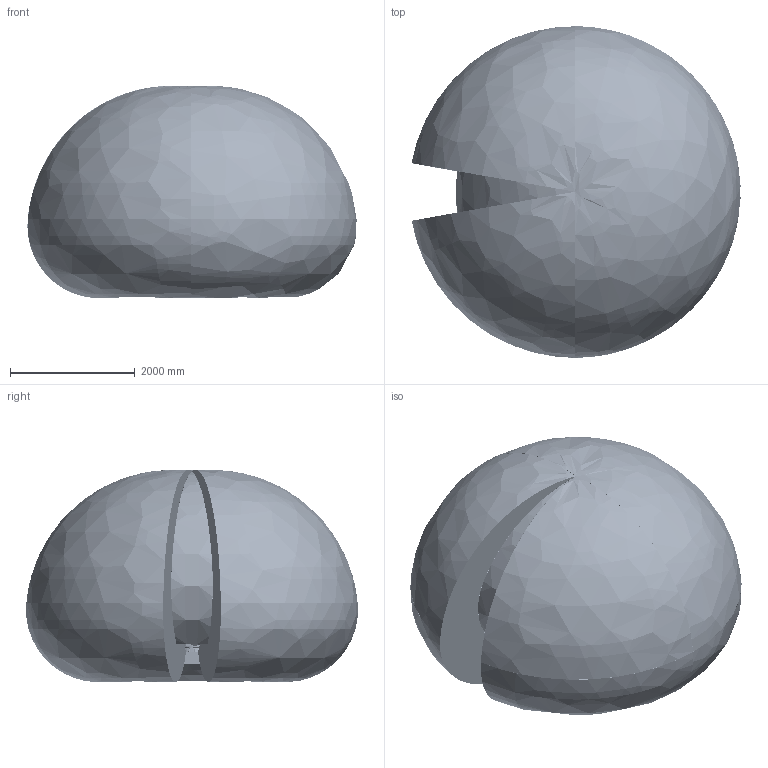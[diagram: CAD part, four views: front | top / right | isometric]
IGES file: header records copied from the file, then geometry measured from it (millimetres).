
Start section: SolidWorks IGES file using analytic representation for surfaces
Global section: file name: C:\Users\seamsto1\Desktop\Lättvikt\IRB6710-MH3_210kg-265_OC_00_SW_J\IRB6710-MH3_210kg-265_OC_00_IGES_J\IRB6710-MH3_210kg-265_OC_00_ASM_CAD.IGS; native system: SolidWorks 2020; preprocessor: SolidWorks 2020; author: SEAMSTO1; date: 230510.132602; units: millimetre
Bounding box: 5274.1 x 5320.19 x 3401.4 mm (x, y, z)
Surface area: 103106475.7 mm2 (no closed solid volume)
Topology: 0 solids, 0 shells, 8576 faces, 133394 edges, 133221 vertices
Faces by surface type: bspline 4916, revolution 3660
